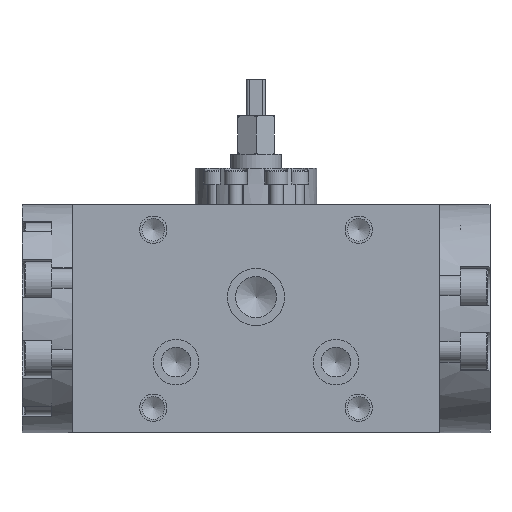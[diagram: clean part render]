
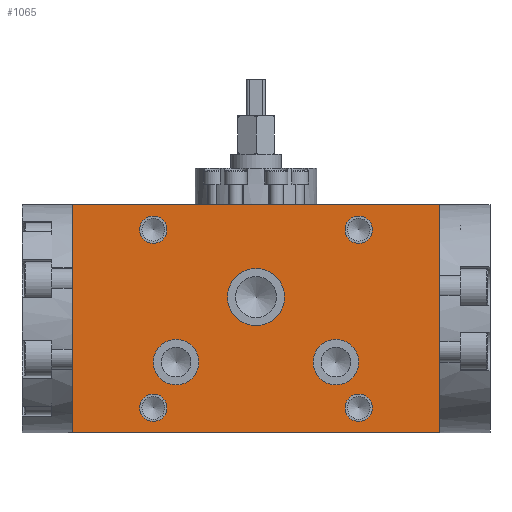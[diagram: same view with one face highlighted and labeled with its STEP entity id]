
A CAD part, front view. The second image highlights one B-rep face of the part: STEP entity #1065.
In plain terms, the highlighted planar face has unit normal (0, -1, 0).
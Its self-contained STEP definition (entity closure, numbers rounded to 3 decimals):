
#1065=ADVANCED_FACE('',(#3811,#3812,#3813,#3814,#3815,#3816,#3817,#3818),
#1754,.F.);
#1754=PLANE('',#11185);
#2155=LINE('',#15662,#2983);
#2156=LINE('',#15665,#2984);
#2157=LINE('',#15667,#2985);
#2158=LINE('',#15669,#2986);
#2983=VECTOR('',#12403,1.);
#2984=VECTOR('',#12404,1.);
#2985=VECTOR('',#12405,1.);
#2986=VECTOR('',#12406,1.);
#3811=FACE_BOUND('',#4450,.T.);
#3812=FACE_BOUND('',#4451,.T.);
#3813=FACE_BOUND('',#4452,.T.);
#3814=FACE_BOUND('',#4453,.T.);
#3815=FACE_BOUND('',#4454,.T.);
#3816=FACE_BOUND('',#4455,.T.);
#3817=FACE_BOUND('',#4456,.T.);
#3818=FACE_BOUND('',#4457,.T.);
#4450=EDGE_LOOP('',(#5476));
#4451=EDGE_LOOP('',(#5477));
#4452=EDGE_LOOP('',(#5478));
#4453=EDGE_LOOP('',(#5479));
#4454=EDGE_LOOP('',(#5480,#5481,#5482,#5483));
#4455=EDGE_LOOP('',(#5484));
#4456=EDGE_LOOP('',(#5485));
#4457=EDGE_LOOP('',(#5486));
#5476=ORIENTED_EDGE('',*,*,#9273,.T.);
#5477=ORIENTED_EDGE('',*,*,#9274,.F.);
#5478=ORIENTED_EDGE('',*,*,#9275,.T.);
#5479=ORIENTED_EDGE('',*,*,#9276,.T.);
#5480=ORIENTED_EDGE('',*,*,#9277,.T.);
#5481=ORIENTED_EDGE('',*,*,#9278,.F.);
#5482=ORIENTED_EDGE('',*,*,#9279,.F.);
#5483=ORIENTED_EDGE('',*,*,#9280,.T.);
#5484=ORIENTED_EDGE('',*,*,#9281,.F.);
#5485=ORIENTED_EDGE('',*,*,#9282,.F.);
#5486=ORIENTED_EDGE('',*,*,#9283,.F.);
#8232=VERTEX_POINT('',#15655);
#8233=VERTEX_POINT('',#15657);
#8234=VERTEX_POINT('',#15659);
#8235=VERTEX_POINT('',#15661);
#8236=VERTEX_POINT('',#15663);
#8237=VERTEX_POINT('',#15664);
#8238=VERTEX_POINT('',#15666);
#8239=VERTEX_POINT('',#15668);
#8240=VERTEX_POINT('',#15671);
#8241=VERTEX_POINT('',#15673);
#8242=VERTEX_POINT('',#15675);
#9273=EDGE_CURVE('',#8232,#8232,#10651,.T.);
#9274=EDGE_CURVE('',#8233,#8233,#10652,.T.);
#9275=EDGE_CURVE('',#8234,#8234,#10653,.T.);
#9276=EDGE_CURVE('',#8235,#8235,#10654,.T.);
#9277=EDGE_CURVE('',#8236,#8237,#2155,.T.);
#9278=EDGE_CURVE('',#8238,#8237,#2156,.T.);
#9279=EDGE_CURVE('',#8239,#8238,#2157,.T.);
#9280=EDGE_CURVE('',#8239,#8236,#2158,.T.);
#9281=EDGE_CURVE('',#8240,#8240,#10655,.T.);
#9282=EDGE_CURVE('',#8241,#8241,#10656,.T.);
#9283=EDGE_CURVE('',#8242,#8242,#10657,.T.);
#10651=CIRCLE('',#11178,10.);
#10652=CIRCLE('',#11179,12.5);
#10653=CIRCLE('',#11180,6.);
#10654=CIRCLE('',#11181,6.);
#10655=CIRCLE('',#11182,6.);
#10656=CIRCLE('',#11183,6.);
#10657=CIRCLE('',#11184,10.);
#11178=AXIS2_PLACEMENT_3D('',#15654,#12395,#12396);
#11179=AXIS2_PLACEMENT_3D('',#15656,#12397,#12398);
#11180=AXIS2_PLACEMENT_3D('',#15658,#12399,#12400);
#11181=AXIS2_PLACEMENT_3D('',#15660,#12401,#12402);
#11182=AXIS2_PLACEMENT_3D('',#15670,#12407,#12408);
#11183=AXIS2_PLACEMENT_3D('',#15672,#12409,#12410);
#11184=AXIS2_PLACEMENT_3D('',#15674,#12411,#12412);
#11185=AXIS2_PLACEMENT_3D('',#15676,#12413,#12414);
#12395=DIRECTION('',(0.,1.,0.));
#12396=DIRECTION('',(-1.,0.,0.));
#12397=DIRECTION('',(0.,-1.,0.));
#12398=DIRECTION('',(1.,0.,0.));
#12399=DIRECTION('',(0.,1.,0.));
#12400=DIRECTION('',(1.,0.,0.));
#12401=DIRECTION('',(0.,1.,0.));
#12402=DIRECTION('',(-1.,0.,0.));
#12403=DIRECTION('',(1.,0.,0.));
#12404=DIRECTION('',(0.,0.,-1.));
#12405=DIRECTION('',(1.,0.,0.));
#12406=DIRECTION('',(0.,0.,-1.));
#12407=DIRECTION('',(0.,-1.,0.));
#12408=DIRECTION('',(1.,0.,0.));
#12409=DIRECTION('',(0.,-1.,0.));
#12410=DIRECTION('',(-1.,0.,0.));
#12411=DIRECTION('',(0.,-1.,0.));
#12412=DIRECTION('',(1.,0.,0.));
#12413=DIRECTION('',(0.,1.,0.));
#12414=DIRECTION('',(0.,0.,1.));
#15654=CARTESIAN_POINT('',(35.,-64.12,31.));
#15655=CARTESIAN_POINT('',(25.,-64.12,31.));
#15656=CARTESIAN_POINT('',(0.,-64.12,59.5));
#15657=CARTESIAN_POINT('',(12.5,-64.12,59.5));
#15658=CARTESIAN_POINT('',(-45.,-64.12,11.));
#15659=CARTESIAN_POINT('',(-39.,-64.12,11.));
#15660=CARTESIAN_POINT('',(45.,-64.12,89.));
#15661=CARTESIAN_POINT('',(39.,-64.12,89.));
#15662=CARTESIAN_POINT('',(-80.5,-64.12,0.));
#15663=CARTESIAN_POINT('',(-80.5,-64.12,0.));
#15664=CARTESIAN_POINT('',(80.5,-64.12,0.));
#15665=CARTESIAN_POINT('',(80.5,-64.12,100.));
#15666=CARTESIAN_POINT('',(80.5,-64.12,100.));
#15667=CARTESIAN_POINT('',(-80.5,-64.12,100.));
#15668=CARTESIAN_POINT('',(-80.5,-64.12,100.));
#15669=CARTESIAN_POINT('',(-80.5,-64.12,100.));
#15670=CARTESIAN_POINT('',(-45.,-64.12,89.));
#15671=CARTESIAN_POINT('',(-39.,-64.12,89.));
#15672=CARTESIAN_POINT('',(45.,-64.12,11.));
#15673=CARTESIAN_POINT('',(39.,-64.12,11.));
#15674=CARTESIAN_POINT('',(-35.,-64.12,31.));
#15675=CARTESIAN_POINT('',(-25.,-64.12,31.));
#15676=CARTESIAN_POINT('',(-80.5,-64.12,100.));
